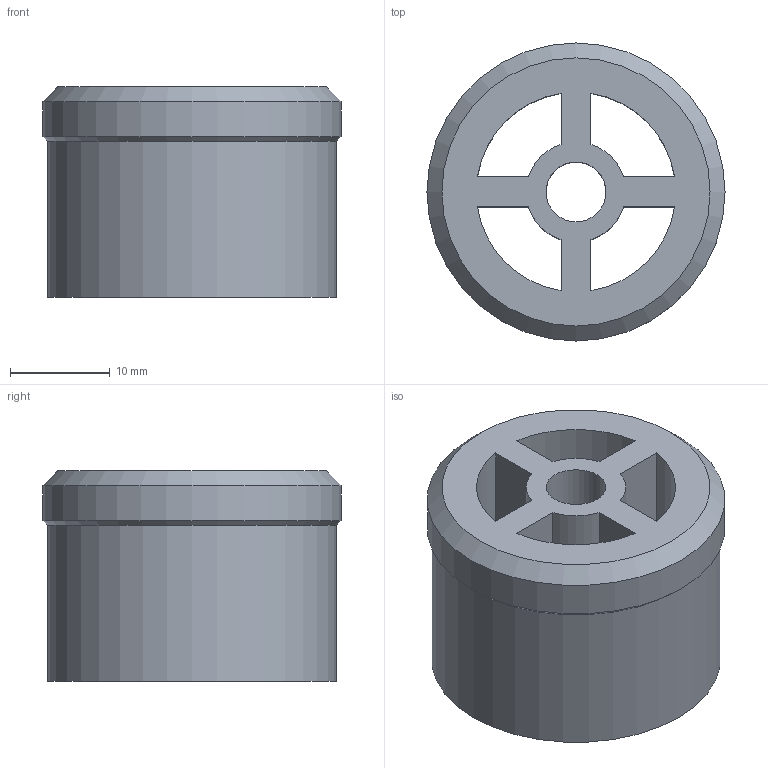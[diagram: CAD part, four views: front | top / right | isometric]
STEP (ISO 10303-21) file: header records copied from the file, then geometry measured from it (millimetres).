
FILE_DESCRIPTION(/* description */ (''),/* implementation_level */ '2;1');
FILE_NAME(/* name */ 'D:\3D печать\Мои проекты\Archy MK 2\STEP\центральная втулка редуктора.stp',/* time_stamp */ '2019-03-20T22:04:46+06:00',/* author */ ('Пользователь'),/* organization */ (''),/* preprocessor_version */ 'ST-DEVELOPER v16.5',/* originating_system */ 'Autodesk Inventor 2017',/* authorisation */ '');
FILE_SCHEMA (('AUTOMOTIVE_DESIGN { 1 0 10303 214 3 1 1 }'));
Length unit declared in the file: millimetre
Products named in the file (1): центральная \X2\0432
04420443043B043A0430\X0\ редуктора
Bounding box: 29.9 x 29.9 x 21.1 mm (x, y, z)
Volume: 9759.9 mm3; surface area: 5563.5 mm2
Topology: 1 solids, 1 shells, 23 faces, 60 edges, 39 vertices
Faces by surface type: cylinder 11, plane 10, cone 2
Full cylindrical faces by diameter (mm): 6 x1, 29 x1, 29.9 x1
Entity records: 732 total; most frequent: DIRECTION 126, CARTESIAN_POINT 118, ORIENTED_EDGE 110, EDGE_CURVE 55, AXIS2_PLACEMENT_3D 47, VERTEX_POINT 39, EDGE_LOOP 38, LINE 32
